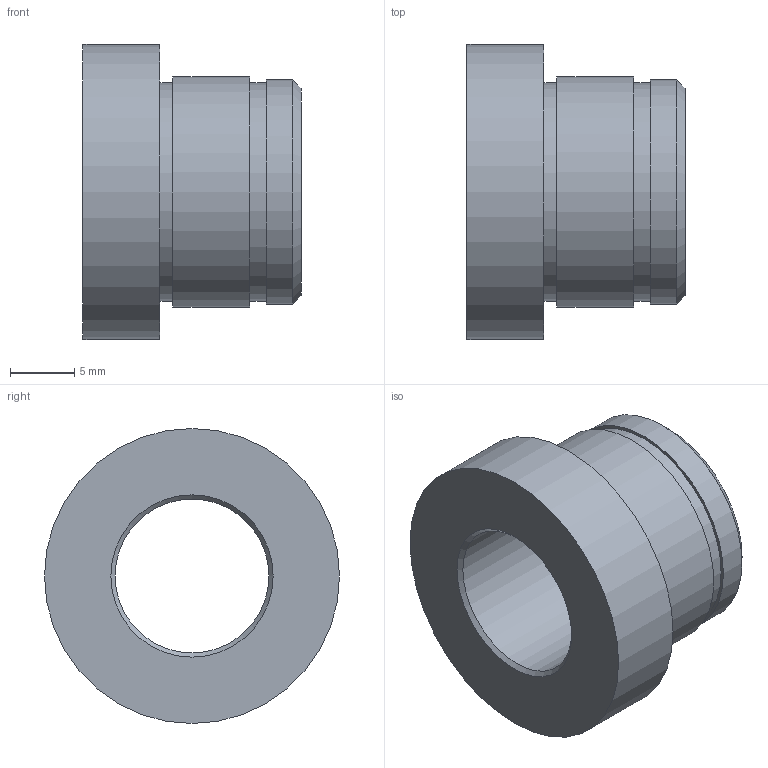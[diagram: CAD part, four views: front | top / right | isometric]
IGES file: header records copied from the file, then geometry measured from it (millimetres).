
Global section: file name: BG05.012017.ipt; native system: Autodesk Inventor 2021; preprocessor: unknown; author: SM; date: 20211221.172603; units: millimetre
Bounding box: 17 x 23 x 23 mm (x, y, z)
Volume: 3253.1 mm3; surface area: 2336.3 mm2
Topology: 1 solids, 1 shells, 15 faces, 26 edges, 17 vertices
Faces by surface type: plane 6, cylinder 5, revolution 3, cone 1
Full cylindrical faces by diameter (mm): 17 x2, 17.5 x1, 18 x1, 23 x1
